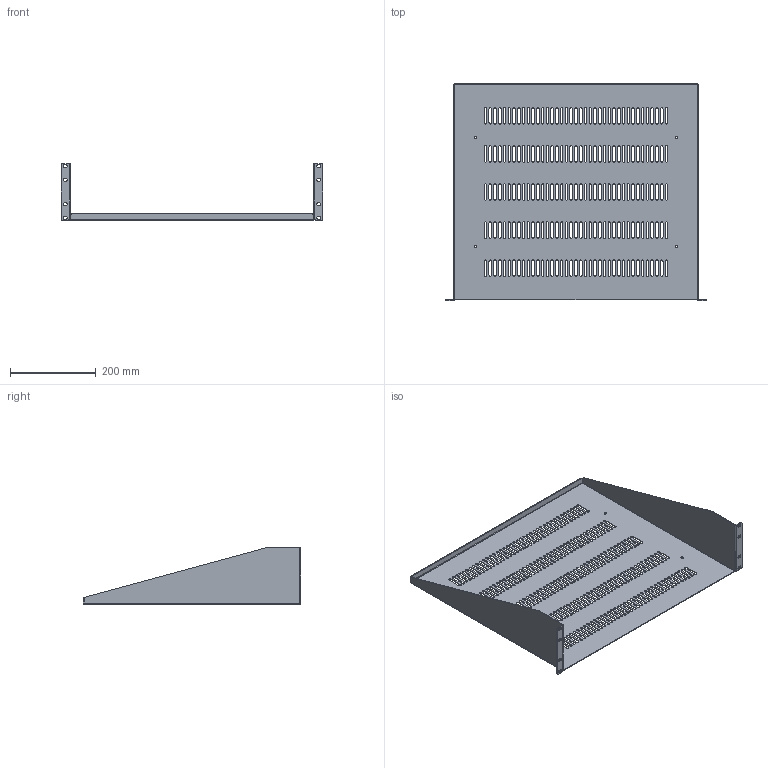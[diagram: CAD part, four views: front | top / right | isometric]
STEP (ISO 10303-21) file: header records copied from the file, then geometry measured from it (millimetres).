
FILE_DESCRIPTION( ( 'Unknown' ), '1' );
FILE_NAME( 'Q:/ACCESSORIES/SHELVES/RK _ RMA/WEB DRAWINGS/STEP/RASV240520.stp', 'Unknown', ( 'Unknown' ), ( 'Unknown' ), 'PSStep 10.1', 'Unknown', ' ' );
FILE_SCHEMA( ( 'AUTOMOTIVE_DESIGN { 1 0 10303 214 1 1 1 1 }' ) );
Length unit declared in the file: millimetre
Products named in the file (1): 1
Bounding box: 609.75 x 508 x 132.54 mm (x, y, z)
Volume: 622216.8 mm3; surface area: 715335.3 mm2
Topology: 1 solids, 1 shells, 880 faces, 2614 edges, 1736 vertices
Faces by surface type: plane 446, cylinder 430, bspline 4
Full cylindrical faces by diameter (mm): 6.35 x4
Entity records: 30745 total; most frequent: CARTESIAN_POINT 5523, ORIENTED_EDGE 5220, DIRECTION 5204, EDGE_CURVE 2610, AXIS2_PLACEMENT_3D 1737, VERTEX_POINT 1736, LINE 1730, VECTOR 1730
